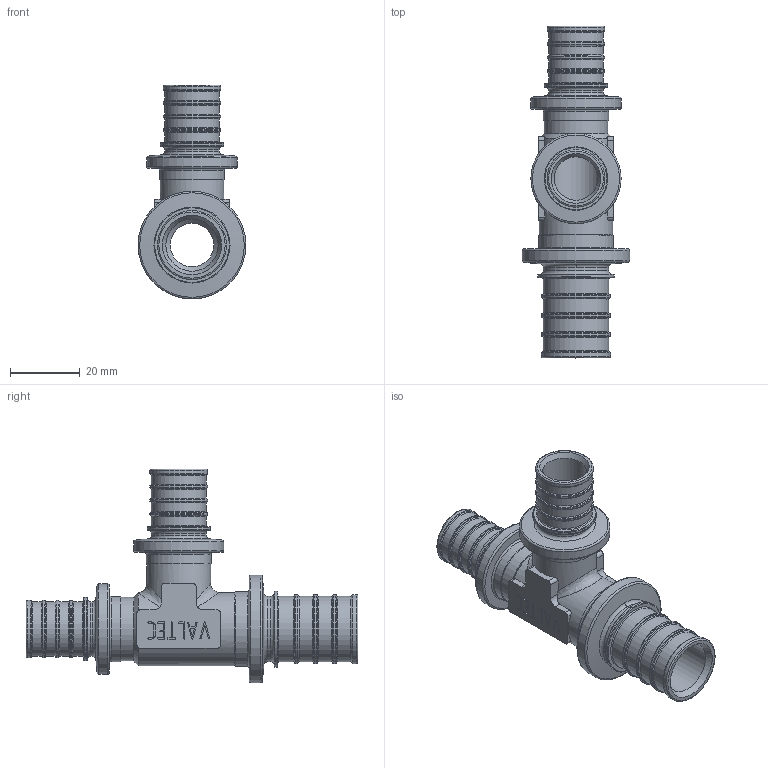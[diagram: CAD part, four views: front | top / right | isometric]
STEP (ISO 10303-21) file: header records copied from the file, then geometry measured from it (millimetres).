
FILE_DESCRIPTION(('STEP AP203'), '1');
FILE_NAME('覆.752241.013 - VTm.431.G.252020 秮鍣. 縺鳱', '', ('UNSPECIFIED'), ('UNSPECIFIED'), 'C3D Converter', 'C3D Toolkit', '');
FILE_SCHEMA(('CONFIG_CONTROL_DESIGN'));
Length unit declared in the file: millimetre
Products named in the file (1): ВР.752241.013
Bounding box: 30.9 x 95.2 x 61.35 mm (x, y, z)
Volume: 20363.8 mm3; surface area: 16354 mm2
Topology: 1 solids, 1 shells, 412 faces, 1058 edges, 671 vertices
Faces by surface type: extrusion 142, plane 124, torus 70, cylinder 60, cone 11, bspline 5
Full cylindrical faces by diameter (mm): 12.5 x2, 15 x1, 15.7 x10, 16.5 x8, 18.2 x2, 18.3 x2, 18.7 x2, 18.8 x5, 19.8 x4, 21 x1, 21.4 x1, 21.8 x1, 25.9 x2, 30.9 x1
Entity records: 16726 total; most frequent: CARTESIAN_POINT 4397, ORIENTED_EDGE 1874, DIRECTION 1462, EDGE_CURVE 937, VERTEX_POINT 671, VECTOR 582, EDGE_LOOP 560, B_SPLINE_CURVE_WITH_KNOTS 465
